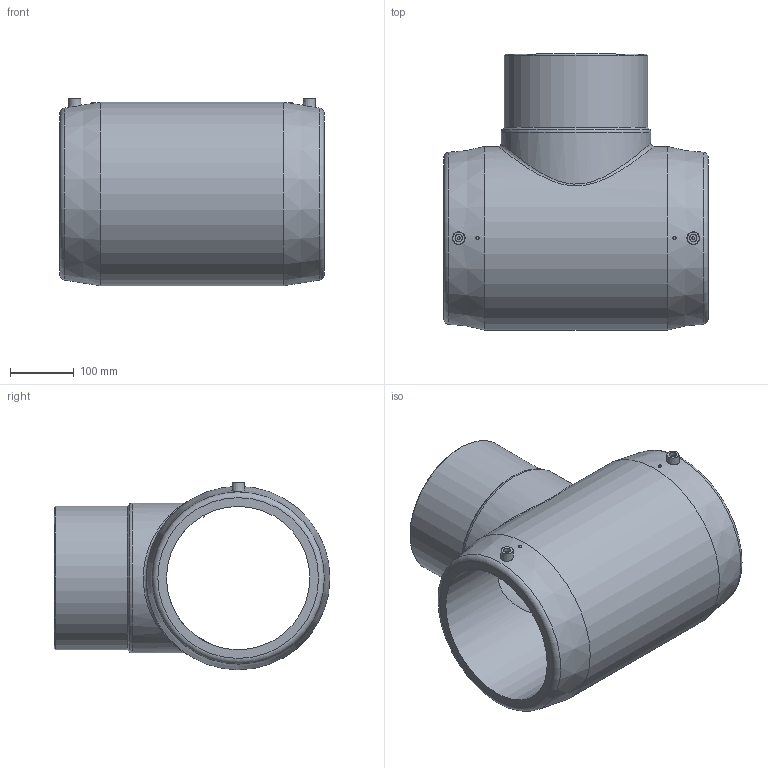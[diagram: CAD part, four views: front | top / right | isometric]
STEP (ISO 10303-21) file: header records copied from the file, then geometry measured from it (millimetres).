
FILE_DESCRIPTION(/* description */ ('Unknown'),/* implementation_level */ '2;1');
FILE_NAME(/* name */ 'TEP225C',/* time_stamp */ '2020-12-10T10:54:48+01:00',/* author */ ('Unknown'),/* organization */ ('Unknown'),/* preprocessor_version */ 'ST-DEVELOPER v16.7',/* originating_system */ 'Solid Edge',/* authorisation */ 'Unknown');
FILE_SCHEMA (('AUTOMOTIVE_DESIGN {1 0 10303 214 3 1 1}'));
Length unit declared in the file: millimetre
Products named in the file (1): TEP225C
Bounding box: 415 x 433 x 294.5 mm (x, y, z)
Volume: 11411554.6 mm3; surface area: 872424 mm2
Topology: 1 solids, 1 shells, 37 faces, 80 edges, 51 vertices
Faces by surface type: plane 16, cylinder 11, cone 6, torus 3, bspline 1
Full cylindrical faces by diameter (mm): 4 x2, 5 x2, 11.5 x2, 184 x1, 225 x2, 235 x1, 288 x1
Entity records: 1358 total; most frequent: CARTESIAN_POINT 671, DIRECTION 140, ORIENTED_EDGE 90, EDGE_LOOP 72, FACE_BOUND 72, AXIS2_PLACEMENT_3D 65, EDGE_CURVE 45, VERTEX_POINT 41
